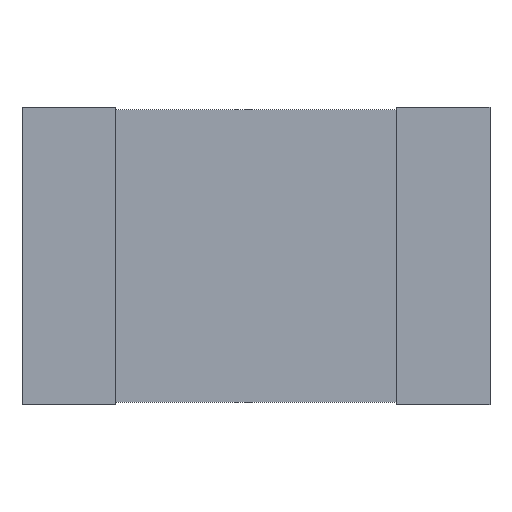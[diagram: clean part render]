
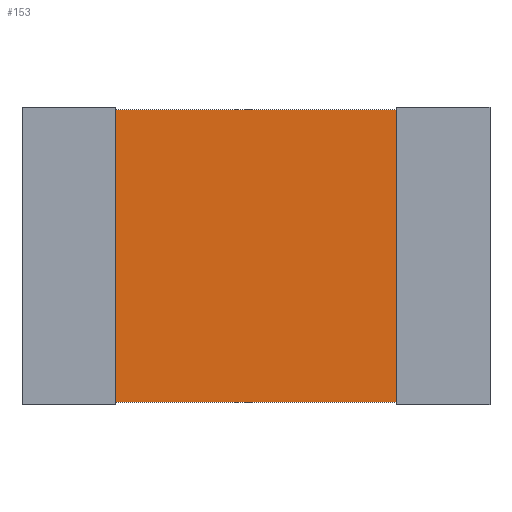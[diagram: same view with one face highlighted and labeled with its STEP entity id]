
A CAD part, top view. The second image highlights one B-rep face of the part: STEP entity #153.
In plain terms, the highlighted planar face has unit normal (0, 0, 1).
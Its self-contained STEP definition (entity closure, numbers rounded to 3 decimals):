
#24 = VERTEX_POINT('',#25);
#25 = CARTESIAN_POINT('',(-1.,-0.625,0.6));
#31 = EDGE_CURVE('',#24,#32,#34,.T.);
#32 = VERTEX_POINT('',#33);
#33 = CARTESIAN_POINT('',(1.,-0.625,0.6));
#34 = LINE('',#35,#36);
#35 = CARTESIAN_POINT('',(-1.,-0.625,0.6));
#36 = VECTOR('',#37,1.);
#37 = DIRECTION('',(1.,0.,0.));
#62 = EDGE_CURVE('',#32,#63,#65,.T.);
#63 = VERTEX_POINT('',#64);
#64 = CARTESIAN_POINT('',(1.,0.625,0.6));
#65 = LINE('',#66,#67);
#66 = CARTESIAN_POINT('',(1.,-0.625,0.6));
#67 = VECTOR('',#68,1.);
#68 = DIRECTION('',(0.,1.,0.));
#93 = EDGE_CURVE('',#63,#94,#96,.T.);
#94 = VERTEX_POINT('',#95);
#95 = CARTESIAN_POINT('',(-1.,0.625,0.6));
#96 = LINE('',#97,#98);
#97 = CARTESIAN_POINT('',(1.,0.625,0.6));
#98 = VECTOR('',#99,1.);
#99 = DIRECTION('',(-1.,0.,0.));
#124 = EDGE_CURVE('',#94,#24,#125,.T.);
#125 = LINE('',#126,#127);
#126 = CARTESIAN_POINT('',(-1.,0.625,0.6));
#127 = VECTOR('',#128,1.);
#128 = DIRECTION('',(0.,-1.,0.));
#153 = ADVANCED_FACE('',(#154),#160,.T.);
#154 = FACE_BOUND('',#155,.T.);
#155 = EDGE_LOOP('',(#156,#157,#158,#159));
#156 = ORIENTED_EDGE('',*,*,#31,.T.);
#157 = ORIENTED_EDGE('',*,*,#62,.T.);
#158 = ORIENTED_EDGE('',*,*,#93,.T.);
#159 = ORIENTED_EDGE('',*,*,#124,.T.);
#160 = PLANE('',#161);
#161 = AXIS2_PLACEMENT_3D('',#162,#163,#164);
#162 = CARTESIAN_POINT('',(0.,0.,0.6));
#163 = DIRECTION('',(0.,0.,1.));
#164 = DIRECTION('',(1.,0.,-0.));
